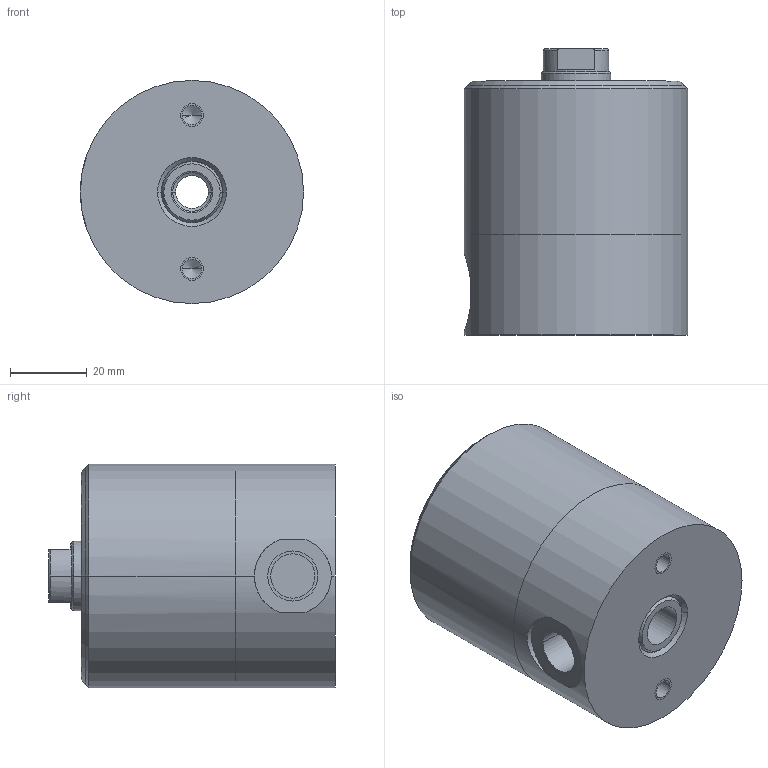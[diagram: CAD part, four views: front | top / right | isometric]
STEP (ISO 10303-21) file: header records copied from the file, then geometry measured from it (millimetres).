
FILE_DESCRIPTION((''),'2;1');
FILE_NAME('HCS-20_ASM','2011-12-22T',('chad.steele'),(''),'PRO/ENGINEER BY PARAMETRIC TECHNOLOGY CORPORATION, 2010040','PRO/ENGINEER BY PARAMETRIC TECHNOLOGY CORPORATION, 2010040','');
FILE_SCHEMA(('CONFIG_CONTROL_DESIGN'));
Products named in the file (4): CY927030; CZ136044; CZ135040; HCS-20_ASM
Assembly tree (3 placements, depth 2):
  HCS-20_ASM
    CY927030
    CZ136044
    CZ135040
Bounding box: 58 x 74.4 x 58 mm (x, y, z)
Volume: 153031.3 mm3; surface area: 51184.1 mm2
Topology: 3 solids, 10 shells, 142 faces, 318 edges, 192 vertices
Faces by surface type: cylinder 64, cone 28, plane 26, torus 24
Entity records: 4162 total; most frequent: DIRECTION 808, CARTESIAN_POINT 755, ORIENTED_EDGE 592, AXIS2_PLACEMENT_3D 353, EDGE_CURVE 310, CIRCLE 198, VERTEX_POINT 192, EDGE_LOOP 168
